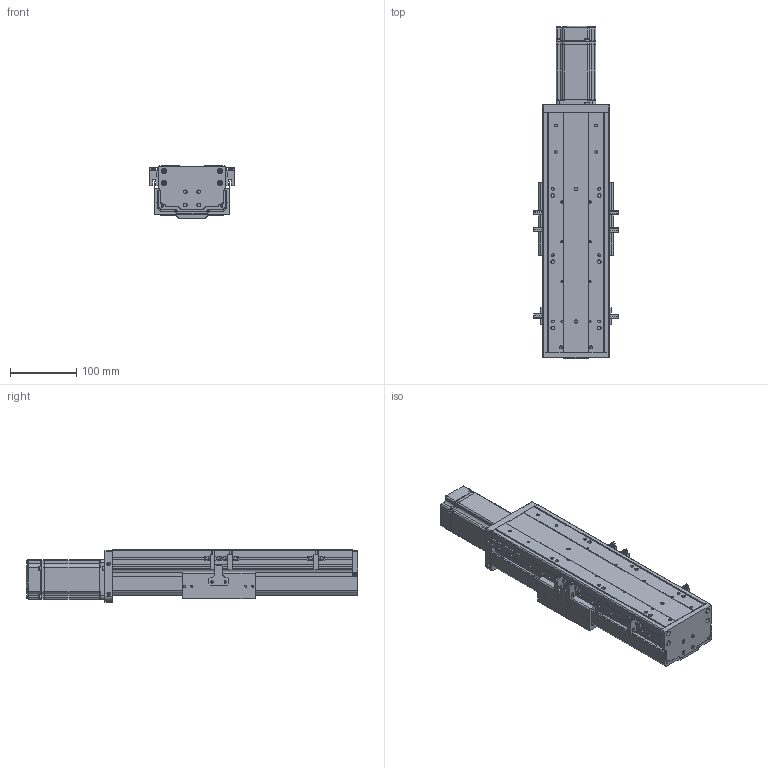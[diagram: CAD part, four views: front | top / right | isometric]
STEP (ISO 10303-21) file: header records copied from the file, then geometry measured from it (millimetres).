
FILE_DESCRIPTION (( 'STEP AP203' ), '1' );
FILE_NAME ('RY100FBS-L1610-300-MK(15双轨）.SLDASM_100.step', '2021-02-22T08:44:01', ( '盈信电脑' ), ( '东莞市道滘镇水果街19号' ), 'SwSTEP 2.0', 'SolidWorks 2012', '' );
FILE_SCHEMA (( 'CONFIG_CONTROL_DESIGN' ));
Length unit declared in the file: millimetre
Products named in the file (12): RY100FBS-L1610-300-MK(15双轨）.SLDASM_100; RY100FB-遵嫖萇覜茼え; 侂狟400W侜督萇儂; 15; 覜茼ん672; RY100FBS-铝滑块（16丝杆）; RY100FBS-前盖板(15双轨）; RY100FBS-后盖板(15双轨）; RY100FBS-300-上盖板(15双轨）_100; 滅袉蝶18-24; RY100FBS-300型材底座(15双轨）_100; 滅袉蝶18-15
Assembly tree (18 placements, depth 3):
  RY100FBS-L1610-300-MK(15双轨）.SLDASM_100
    RY100FBS-300型材底座(15双轨）_100
    滅袉蝶18-24  x2
    滅袉蝶18-15
    RY100FBS-铝滑块（16丝杆）
    RY100FBS-300-上盖板(15双轨）_100
    RY100FBS-前盖板(15双轨）
    RY100FBS-后盖板(15双轨）
    侂狟400W侜督萇儂
      15
    RY100FB-遵嫖萇覜茼え  x2
    覜茼ん672  x6
Bounding box: 127.4 x 500.5 x 78.75 mm (x, y, z)
Volume: 1470499.1 mm3; surface area: 457449.6 mm2
Topology: 17 solids, 17 shells, 1671 faces, 4687 edges, 3068 vertices
Faces by surface type: plane 853, cylinder 686, cone 114, bspline 18
Entity records: 42672 total; most frequent: CARTESIAN_POINT 8927, DIRECTION 6850, ORIENTED_EDGE 6718, EDGE_CURVE 3359, AXIS2_PLACEMENT_3D 2445, VERTEX_POINT 2216, LINE 1960, VECTOR 1960
